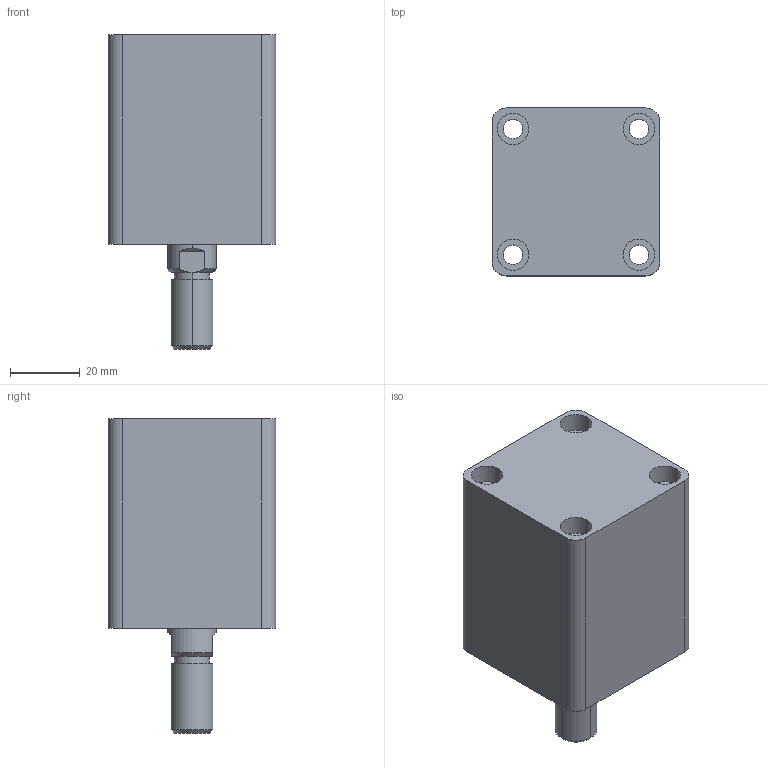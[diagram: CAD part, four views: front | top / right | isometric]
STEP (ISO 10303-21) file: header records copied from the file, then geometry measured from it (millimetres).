
FILE_DESCRIPTION (( 'STEP AP203' ), '1' );
FILE_NAME ('HTB-SD25-15W.STEP', '2019-10-07T05:58:05', ( '微软用户' ), ( '微软中国' ), 'SwSTEP 2.0', 'SolidWorks 2012', '' );
FILE_SCHEMA (( 'CONFIG_CONTROL_DESIGN' ));
Length unit declared in the file: millimetre
Products named in the file (3): HTB-SD25-15掛极; HTB-SD25-15W活塞杆; HTB-SD25-15W
Assembly tree (2 placements, depth 2):
  HTB-SD25-15W
    HTB-SD25-15掛极
    HTB-SD25-15W活塞杆
Bounding box: 48 x 48 x 90 mm (x, y, z)
Volume: 127285.1 mm3; surface area: 29572.4 mm2
Topology: 2 solids, 2 shells, 87 faces, 188 edges, 122 vertices
Faces by surface type: cylinder 44, plane 29, cone 8, torus 6
Entity records: 2759 total; most frequent: DIRECTION 476, CARTESIAN_POINT 446, ORIENTED_EDGE 376, AXIS2_PLACEMENT_3D 204, EDGE_CURVE 188, VERTEX_POINT 122, CIRCLE 112, EDGE_LOOP 112
